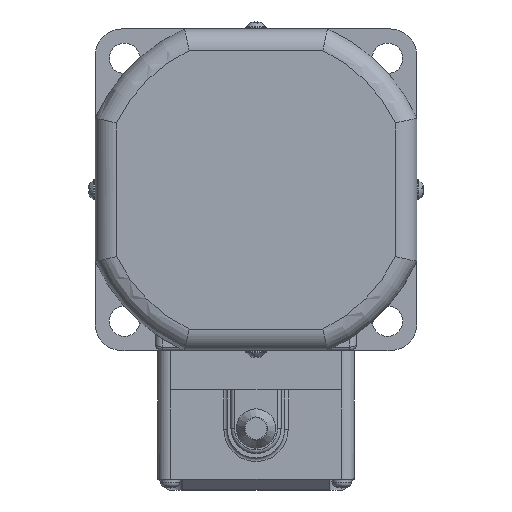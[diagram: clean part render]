
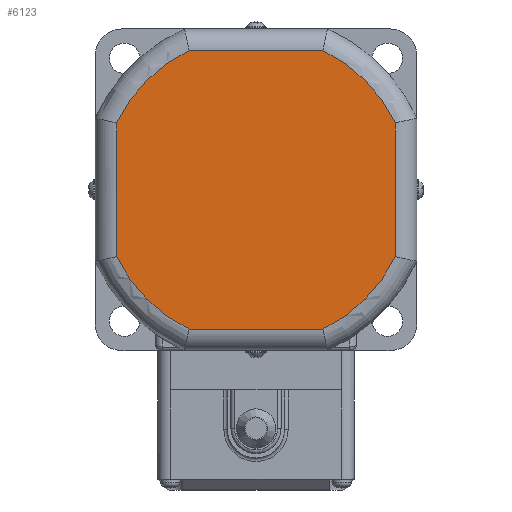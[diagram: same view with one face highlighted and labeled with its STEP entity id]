
A CAD part, left-side view. The second image highlights one B-rep face of the part: STEP entity #6123.
In plain terms, the highlighted planar face has unit normal (-1, 0, 0).
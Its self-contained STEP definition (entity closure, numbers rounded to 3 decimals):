
#507=CIRCLE('',#6682,43.25);
#508=CIRCLE('',#6683,43.25);
#509=CIRCLE('',#6684,43.25);
#510=CIRCLE('',#6685,43.25);
#985=FACE_OUTER_BOUND('',#1367,.T.);
#1367=EDGE_LOOP('',(#4980,#4981,#4982,#4983,#4984,#4985,#4986,#4987));
#1803=LINE('',#11209,#2194);
#1804=LINE('',#11213,#2195);
#1805=LINE('',#11217,#2196);
#1806=LINE('',#11221,#2197);
#2194=VECTOR('',#8027,37.393);
#2195=VECTOR('',#8030,37.393);
#2196=VECTOR('',#8033,37.393);
#2197=VECTOR('',#8036,37.393);
#2729=VERTEX_POINT('',#11207);
#2730=VERTEX_POINT('',#11208);
#2731=VERTEX_POINT('',#11210);
#2732=VERTEX_POINT('',#11212);
#2733=VERTEX_POINT('',#11214);
#2734=VERTEX_POINT('',#11216);
#2735=VERTEX_POINT('',#11218);
#2736=VERTEX_POINT('',#11220);
#3518=EDGE_CURVE('',#2729,#2730,#1803,.T.);
#3519=EDGE_CURVE('',#2731,#2729,#507,.T.);
#3520=EDGE_CURVE('',#2732,#2731,#1804,.T.);
#3521=EDGE_CURVE('',#2733,#2732,#508,.T.);
#3522=EDGE_CURVE('',#2734,#2733,#1805,.T.);
#3523=EDGE_CURVE('',#2735,#2734,#509,.T.);
#3524=EDGE_CURVE('',#2736,#2735,#1806,.T.);
#3525=EDGE_CURVE('',#2730,#2736,#510,.T.);
#4980=ORIENTED_EDGE('',*,*,#3518,.F.);
#4981=ORIENTED_EDGE('',*,*,#3519,.F.);
#4982=ORIENTED_EDGE('',*,*,#3520,.F.);
#4983=ORIENTED_EDGE('',*,*,#3521,.F.);
#4984=ORIENTED_EDGE('',*,*,#3522,.F.);
#4985=ORIENTED_EDGE('',*,*,#3523,.F.);
#4986=ORIENTED_EDGE('',*,*,#3524,.F.);
#4987=ORIENTED_EDGE('',*,*,#3525,.F.);
#5571=PLANE('',#6681);
#6123=ADVANCED_FACE('',(#985),#5571,.F.);
#6681=AXIS2_PLACEMENT_3D('',#11206,#8025,#8026);
#6682=AXIS2_PLACEMENT_3D('',#11211,#8028,#8029);
#6683=AXIS2_PLACEMENT_3D('',#11215,#8031,#8032);
#6684=AXIS2_PLACEMENT_3D('',#11219,#8034,#8035);
#6685=AXIS2_PLACEMENT_3D('',#11222,#8037,#8038);
#8025=DIRECTION('center_axis',(1.,0.,0.));
#8026=DIRECTION('ref_axis',(0.,0.,-1.));
#8027=DIRECTION('',(0.,0.,1.));
#8028=DIRECTION('center_axis',(1.,0.,0.));
#8029=DIRECTION('ref_axis',(0.,0.707,-0.707));
#8030=DIRECTION('',(0.,1.,0.));
#8031=DIRECTION('center_axis',(1.,0.,0.));
#8032=DIRECTION('ref_axis',(0.,-0.707,-0.707));
#8033=DIRECTION('',(0.,0.,-1.));
#8034=DIRECTION('center_axis',(1.,0.,0.));
#8035=DIRECTION('ref_axis',(0.,-0.707,0.707));
#8036=DIRECTION('',(0.,-1.,0.));
#8037=DIRECTION('center_axis',(1.,0.,0.));
#8038=DIRECTION('ref_axis',(0.,0.707,0.707));
#11206=CARTESIAN_POINT('Origin',(-17.8,0.,
0.));
#11207=CARTESIAN_POINT('',(-17.8,39.,-18.697));
#11208=CARTESIAN_POINT('',(-17.8,39.,18.697));
#11209=CARTESIAN_POINT('',(-17.8,39.,-18.697));
#11210=CARTESIAN_POINT('',(-17.8,18.697,-39.));
#11211=CARTESIAN_POINT('Origin',(-17.8,0.,
0.));
#11212=CARTESIAN_POINT('',(-17.8,-18.697,-39.));
#11213=CARTESIAN_POINT('',(-17.8,-18.697,-39.));
#11214=CARTESIAN_POINT('',(-17.8,-39.,-18.697));
#11215=CARTESIAN_POINT('Origin',(-17.8,0.,
0.));
#11216=CARTESIAN_POINT('',(-17.8,-39.,18.697));
#11217=CARTESIAN_POINT('',(-17.8,-39.,18.697));
#11218=CARTESIAN_POINT('',(-17.8,-18.697,39.));
#11219=CARTESIAN_POINT('Origin',(-17.8,0.,
0.));
#11220=CARTESIAN_POINT('',(-17.8,18.697,39.));
#11221=CARTESIAN_POINT('',(-17.8,18.697,39.));
#11222=CARTESIAN_POINT('Origin',(-17.8,0.,
0.));
